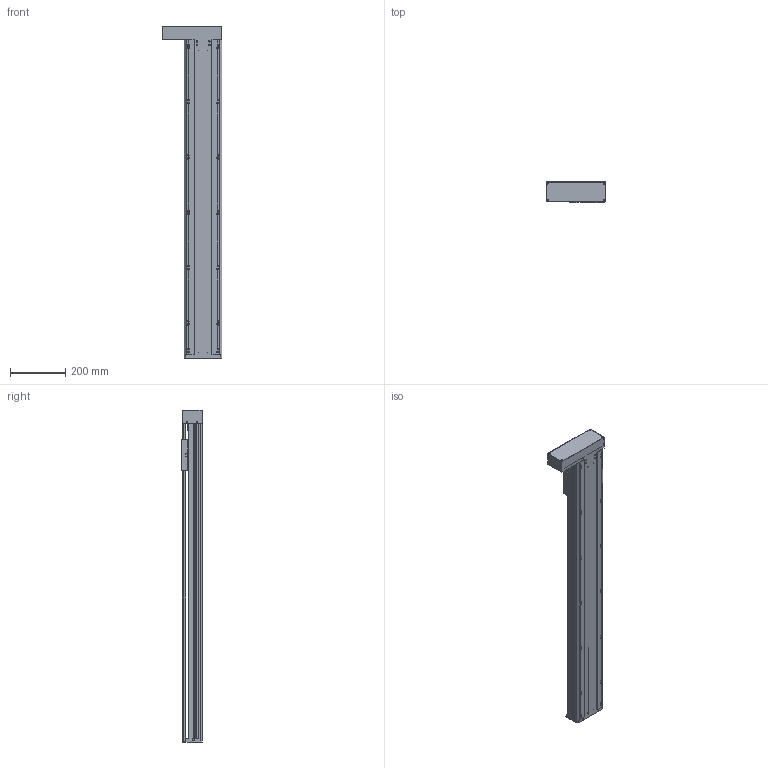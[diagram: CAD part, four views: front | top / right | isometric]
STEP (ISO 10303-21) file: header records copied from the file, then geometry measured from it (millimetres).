
FILE_DESCRIPTION(/* description */ (''),/* implementation_level */ '2;1');
FILE_NAME(/* name */ 'TKA136-FL-950_asm1.stp',/* time_stamp */ '2016-05-07T13:31:53+08:00',/* author */ (''),/* organization */ (''),/* preprocessor_version */ 'ST-DEVELOPER v15',/* originating_system */ 'SIEMENS PLM Software NX 8.5',/* authorisation */ '');
FILE_SCHEMA (('AUTOMOTIVE_DESIGN { 1 0 10303 214 3 1 1 1 }'));
Length unit declared in the file: millimetre
Products named in the file (3): 100-02; 100-01; TKA136-FL-950_asm1
Assembly tree (2 placements, depth 2):
  TKA136-FL-950_asm1
    100-01
    100-02
Bounding box: 216 x 75 x 1200 mm (x, y, z)
Volume: 3583946.3 mm3; surface area: 1420899.2 mm2
Topology: 2 solids, 12 shells, 918 faces, 2636 edges, 1721 vertices
Faces by surface type: cylinder 442, plane 425, cone 51
Full cylindrical faces by diameter (mm): 2.5 x14, 3 x2, 3.3 x13, 4 x4, 4.2 x6, 4.5 x24, 5 x22, 5.5 x26, 6.6 x18, 8 x20, 10 x9, 10.5 x14, 11 x4, 11.6 x1, 12 x9, 15 x3, 16 x5, 17 x1, 24 x5, 26 x1, 28 x1, 46 x1, 50 x1
Entity records: 31248 total; most frequent: CARTESIAN_POINT 8430, DIRECTION 4698, ORIENTED_EDGE 4466, EDGE_CURVE 2233, AXIS2_PLACEMENT_3D 1779, VERTEX_POINT 1592, EDGE_LOOP 1372, LINE 1140
